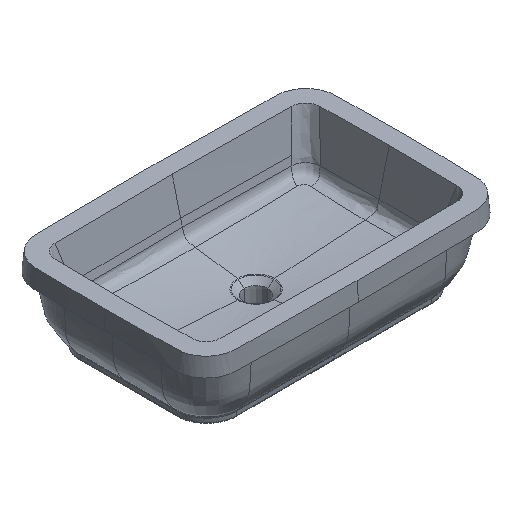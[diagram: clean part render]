
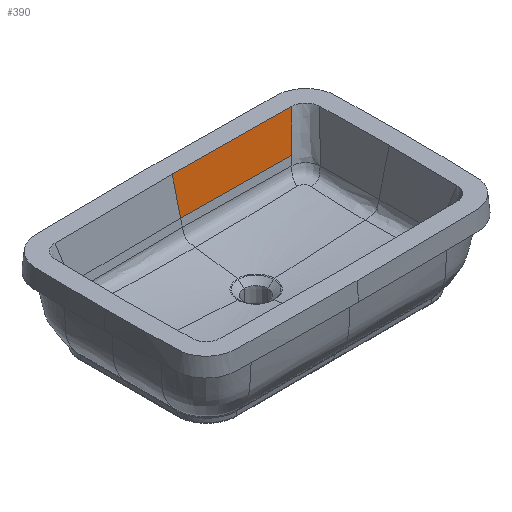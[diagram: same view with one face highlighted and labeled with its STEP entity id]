
A CAD part, isometric view. The second image highlights one B-rep face of the part: STEP entity #390.
In plain terms, the highlighted free-form (B-spline) face has degree [3, 3] with [6, 7] control points.
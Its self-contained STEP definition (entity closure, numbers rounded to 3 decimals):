
#59=LINE('',#17528,#77);
#77=VECTOR('',#1889,1.);
#147=B_SPLINE_SURFACE_WITH_KNOTS('',3,3,((#17529,#17530,#17531,#17532,#17533,
#17534,#17535),(#17536,#17537,#17538,#17539,#17540,#17541,#17542),(#17543,
#17544,#17545,#17546,#17547,#17548,#17549),(#17550,#17551,#17552,#17553,
#17554,#17555,#17556),(#17557,#17558,#17559,#17560,#17561,#17562,#17563),
(#17564,#17565,#17566,#17567,#17568,#17569,#17570)),.UNSPECIFIED.,.F.,.F.,
 .F.,(4,1,1,4),(4,2,1,4),(0.,0.2,0.239,1.),(0.,
0.01,0.505,1.),.UNSPECIFIED.);
#281=FACE_OUTER_BOUND('',#546,.T.);
#390=ADVANCED_FACE('',(#281),#147,.T.);
#546=EDGE_LOOP('',(#1085,#1086,#1087,#1088,#1089));
#1085=ORIENTED_EDGE('',*,*,#1575,.F.);
#1086=ORIENTED_EDGE('',*,*,#1576,.T.);
#1087=ORIENTED_EDGE('',*,*,#1574,.T.);
#1088=ORIENTED_EDGE('',*,*,#1570,.T.);
#1089=ORIENTED_EDGE('',*,*,#1569,.T.);
#1281=VERTEX_POINT('',#14806);
#1300=VERTEX_POINT('',#16945);
#1301=VERTEX_POINT('',#16950);
#1302=VERTEX_POINT('',#16955);
#1303=VERTEX_POINT('',#17527);
#1569=EDGE_CURVE('',#1301,#1300,#1792,.T.);
#1570=EDGE_CURVE('',#1302,#1301,#1793,.T.);
#1574=EDGE_CURVE('',#1281,#1302,#1797,.T.);
#1575=EDGE_CURVE('',#1303,#1300,#1798,.T.);
#1576=EDGE_CURVE('',#1303,#1281,#59,.T.);
#1792=B_SPLINE_CURVE_WITH_KNOTS('',3,(#16946,#16947,#16948,#16949),
 .UNSPECIFIED.,.F.,.F.,(4,4),(0.,1.),.UNSPECIFIED.);
#1793=B_SPLINE_CURVE_WITH_KNOTS('',3,(#16951,#16952,#16953,#16954),
 .UNSPECIFIED.,.F.,.F.,(4,4),(0.,1.),.UNSPECIFIED.);
#1797=B_SPLINE_CURVE_WITH_KNOTS('',3,(#17488,#17489,#17490,#17491),
 .UNSPECIFIED.,.F.,.F.,(4,4),(0.,1.),.UNSPECIFIED.);
#1798=B_SPLINE_CURVE_WITH_KNOTS('',3,(#17522,#17523,#17524,#17525,#17526),
 .UNSPECIFIED.,.F.,.F.,(4,1,4),(0.,0.982,1.),.UNSPECIFIED.);
#1889=DIRECTION('',(0.,-0.242,-0.97));
#14806=CARTESIAN_POINT('',(0.,152.504,-75.));
#16945=CARTESIAN_POINT('',(239.629,167.026,-6.));
#16946=CARTESIAN_POINT('',(230.339,157.753,-44.));
#16947=CARTESIAN_POINT('',(233.44,160.847,-31.326));
#16948=CARTESIAN_POINT('',(236.537,163.938,-18.659));
#16949=CARTESIAN_POINT('',(239.629,167.026,-6.));
#16950=CARTESIAN_POINT('',(230.339,157.753,-44.));
#16951=CARTESIAN_POINT('',(222.749,150.183,-75.));
#16952=CARTESIAN_POINT('',(228.456,155.873,-51.705));
#16953=CARTESIAN_POINT('',(234.148,161.553,-28.437));
#16954=CARTESIAN_POINT('',(239.826,167.221,-5.197));
#16955=CARTESIAN_POINT('',(222.749,150.183,-75.));
#17488=CARTESIAN_POINT('',(0.,152.504,-75.));
#17489=CARTESIAN_POINT('',(74.242,152.504,-75.));
#17490=CARTESIAN_POINT('',(148.497,151.73,-75.));
#17491=CARTESIAN_POINT('',(222.749,150.183,-75.));
#17522=CARTESIAN_POINT('',(0.,169.707,-6.));
#17523=CARTESIAN_POINT('',(78.455,169.707,-6.));
#17524=CARTESIAN_POINT('',(158.338,168.829,-6.));
#17525=CARTESIAN_POINT('',(238.216,167.057,-6.));
#17526=CARTESIAN_POINT('',(239.629,167.026,-6.));
#17527=CARTESIAN_POINT('',(0.,169.707,-6.));
#17528=CARTESIAN_POINT('',(0.,161.349,-39.524));
#17529=CARTESIAN_POINT('',(-4.713,183.257,48.346));
#17530=CARTESIAN_POINT('',(-3.142,183.257,48.346));
#17531=CARTESIAN_POINT('',(-1.571,183.257,48.346));
#17532=CARTESIAN_POINT('',(78.555,183.257,48.346));
#17533=CARTESIAN_POINT('',(235.692,181.53,48.346));
#17534=CARTESIAN_POINT('',(392.811,176.347,48.346));
#17535=CARTESIAN_POINT('',(471.37,173.755,48.346));
#17536=CARTESIAN_POINT('',(-4.712,180.007,35.309));
#17537=CARTESIAN_POINT('',(-3.141,180.007,35.309));
#17538=CARTESIAN_POINT('',(-1.571,180.007,35.309));
#17539=CARTESIAN_POINT('',(78.531,180.007,35.309));
#17540=CARTESIAN_POINT('',(235.621,178.28,35.309));
#17541=CARTESIAN_POINT('',(392.691,173.098,35.309));
#17542=CARTESIAN_POINT('',(471.227,170.508,35.309));
#17543=CARTESIAN_POINT('',(-4.71,176.112,19.685));
#17544=CARTESIAN_POINT('',(-3.14,176.112,19.685));
#17545=CARTESIAN_POINT('',(-1.57,176.112,19.685));
#17546=CARTESIAN_POINT('',(78.502,176.112,19.685));
#17547=CARTESIAN_POINT('',(235.535,174.386,19.685));
#17548=CARTESIAN_POINT('',(392.549,169.206,19.685));
#17549=CARTESIAN_POINT('',(471.056,166.616,19.685));
#17550=CARTESIAN_POINT('',(-4.703,159.827,-45.63));
#17551=CARTESIAN_POINT('',(-3.135,159.827,-45.63));
#17552=CARTESIAN_POINT('',(-1.568,159.827,-45.63));
#17553=CARTESIAN_POINT('',(78.383,159.827,-45.63));
#17554=CARTESIAN_POINT('',(235.177,158.103,-45.63));
#17555=CARTESIAN_POINT('',(391.952,152.931,-45.63));
#17556=CARTESIAN_POINT('',(470.34,150.345,-45.63));
#17557=CARTESIAN_POINT('',(-4.697,146.792,-97.908));
#17558=CARTESIAN_POINT('',(-3.131,146.792,-97.908));
#17559=CARTESIAN_POINT('',(-1.566,146.792,-97.908));
#17560=CARTESIAN_POINT('',(78.287,146.792,-97.908));
#17561=CARTESIAN_POINT('',(234.891,145.071,-97.908));
#17562=CARTESIAN_POINT('',(391.474,139.905,-97.908));
#17563=CARTESIAN_POINT('',(469.766,137.322,-97.908));
#17564=CARTESIAN_POINT('',(-4.692,134.403,-147.6));
#17565=CARTESIAN_POINT('',(-3.128,134.403,-147.6));
#17566=CARTESIAN_POINT('',(-1.564,134.403,-147.6));
#17567=CARTESIAN_POINT('',(78.196,134.403,-147.6));
#17568=CARTESIAN_POINT('',(234.618,132.683,-147.6));
#17569=CARTESIAN_POINT('',(391.021,127.524,-147.6));
#17570=CARTESIAN_POINT('',(469.222,124.944,-147.6));
